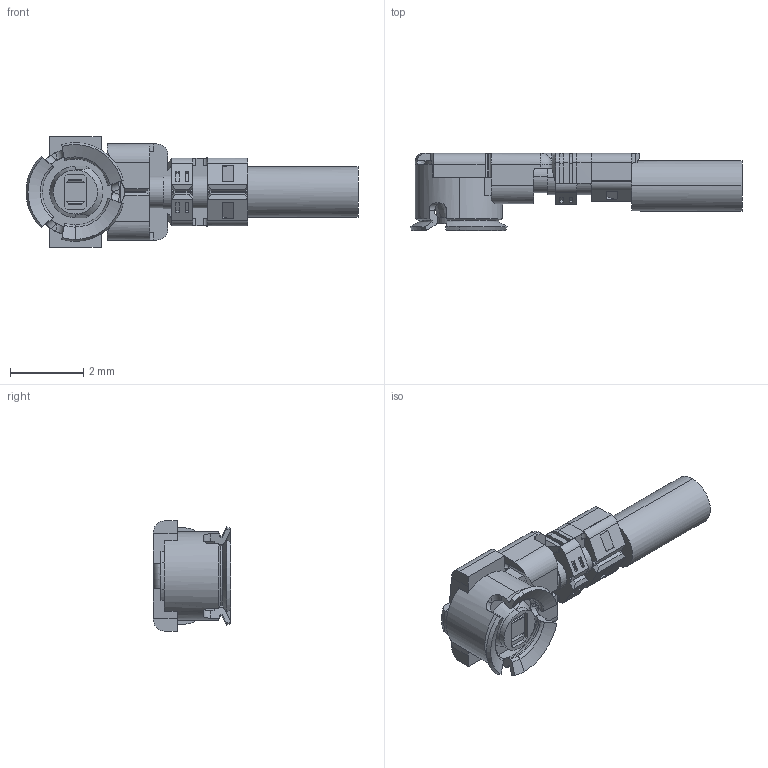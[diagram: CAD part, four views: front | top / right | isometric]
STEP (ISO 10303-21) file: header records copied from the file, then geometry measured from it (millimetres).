
FILE_DESCRIPTION (( 'STEP AP203' ), '1' );
FILE_NAME ('20351-1xxR-37C PLUG R7 STEP ALL.STEP', '2018-07-05T06:39:41', ( '' ), ( '' ), 'SwSTEP 2.0', 'SolidWorks 2017', '' );
FILE_SCHEMA (( 'CONFIG_CONTROL_DESIGN' ));
Length unit declared in the file: millimetre
Products named in the file (1): 20351-1xxR-37C PLUG R7 STEP ALL
Bounding box: 9.04 x 2.1 x 3 mm (x, y, z)
Volume: 21 mm3; surface area: 80.3 mm2
Topology: 1 solids, 1 shells, 374 faces, 1010 edges, 648 vertices
Faces by surface type: plane 219, cylinder 79, bspline 41, cone 22, torus 11, sphere 2
Entity records: 13085 total; most frequent: CARTESIAN_POINT 3929, ORIENTED_EDGE 2012, DIRECTION 1701, EDGE_CURVE 1006, LINE 677, VECTOR 677, VERTEX_POINT 648, AXIS2_PLACEMENT_3D 512
